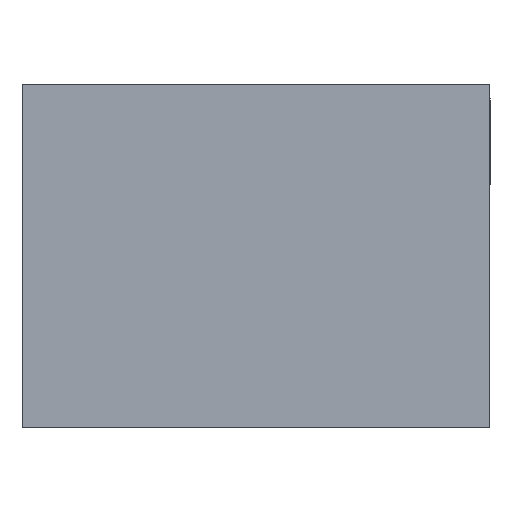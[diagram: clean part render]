
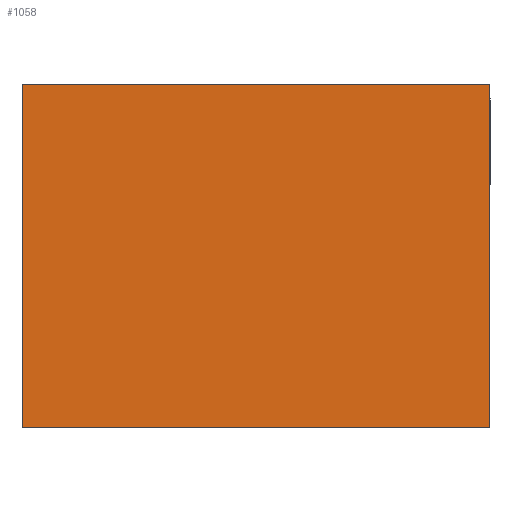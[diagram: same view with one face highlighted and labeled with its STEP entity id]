
A CAD part, front view. The second image highlights one B-rep face of the part: STEP entity #1058.
In plain terms, the highlighted planar face has unit normal (0, -1, 0).
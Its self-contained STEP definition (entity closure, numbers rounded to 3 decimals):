
#21 = CARTESIAN_POINT ( 'NONE',  ( -37.5, 0., -27.5 ) ) ;
#81 = DIRECTION ( 'NONE',  ( 0., 1., 0. ) ) ;
#92 = DIRECTION ( 'NONE',  ( 0., 0., 1. ) ) ;
#100 = VECTOR ( 'NONE', #899, 1000. ) ;
#128 = CARTESIAN_POINT ( 'NONE',  ( 37.5, 0., -27.5 ) ) ;
#136 = EDGE_LOOP ( 'NONE', ( #1894, #1212, #2386, #1292 ) ) ;
#229 = FACE_OUTER_BOUND ( 'NONE', #136, .T. ) ;
#343 = EDGE_CURVE ( 'NONE', #1433, #1236, #1297, .T. ) ;
#381 = VERTEX_POINT ( 'NONE', #1599 ) ;
#508 = VECTOR ( 'NONE', #2391, 1000. ) ;
#560 = LINE ( 'NONE', #1096, #508 ) ;
#579 = LINE ( 'NONE', #1274, #100 ) ;
#628 = CARTESIAN_POINT ( 'NONE',  ( 0., 0., 0. ) ) ;
#806 = PLANE ( 'NONE',  #1691 ) ;
#899 = DIRECTION ( 'NONE',  ( 0., 0., 1. ) ) ;
#1058 = ADVANCED_FACE ( 'NONE', ( #229 ), #806, .F. ) ;
#1096 = CARTESIAN_POINT ( 'NONE',  ( 37.5, 0., -27.5 ) ) ;
#1212 = ORIENTED_EDGE ( 'NONE', *, *, #1500, .F. ) ;
#1236 = VERTEX_POINT ( 'NONE', #21 ) ;
#1274 = CARTESIAN_POINT ( 'NONE',  ( -37.5, 0., -27.5 ) ) ;
#1292 = ORIENTED_EDGE ( 'NONE', *, *, #343, .F. ) ;
#1297 = LINE ( 'NONE', #2286, #2330 ) ;
#1346 = DIRECTION ( 'NONE',  ( -1., 0., 0. ) ) ;
#1348 = VERTEX_POINT ( 'NONE', #2385 ) ;
#1422 = EDGE_CURVE ( 'NONE', #381, #1433, #560, .T. ) ;
#1433 = VERTEX_POINT ( 'NONE', #128 ) ;
#1500 = EDGE_CURVE ( 'NONE', #1348, #381, #2355, .T. ) ;
#1599 = CARTESIAN_POINT ( 'NONE',  ( 37.5, 0., 27.5 ) ) ;
#1662 = EDGE_CURVE ( 'NONE', #1236, #1348, #579, .T. ) ;
#1691 = AXIS2_PLACEMENT_3D ( 'NONE', #628, #81, #92 ) ;
#1851 = VECTOR ( 'NONE', #1968, 1000. ) ;
#1894 = ORIENTED_EDGE ( 'NONE', *, *, #1422, .F. ) ;
#1968 = DIRECTION ( 'NONE',  ( 1., 0., 0. ) ) ;
#1976 = CARTESIAN_POINT ( 'NONE',  ( -37.5, 0., 27.5 ) ) ;
#2286 = CARTESIAN_POINT ( 'NONE',  ( -37.5, 0., -27.5 ) ) ;
#2330 = VECTOR ( 'NONE', #1346, 1000. ) ;
#2355 = LINE ( 'NONE', #1976, #1851 ) ;
#2385 = CARTESIAN_POINT ( 'NONE',  ( -37.5, 0., 27.5 ) ) ;
#2386 = ORIENTED_EDGE ( 'NONE', *, *, #1662, .F. ) ;
#2391 = DIRECTION ( 'NONE',  ( 0., 0., -1. ) ) ;
